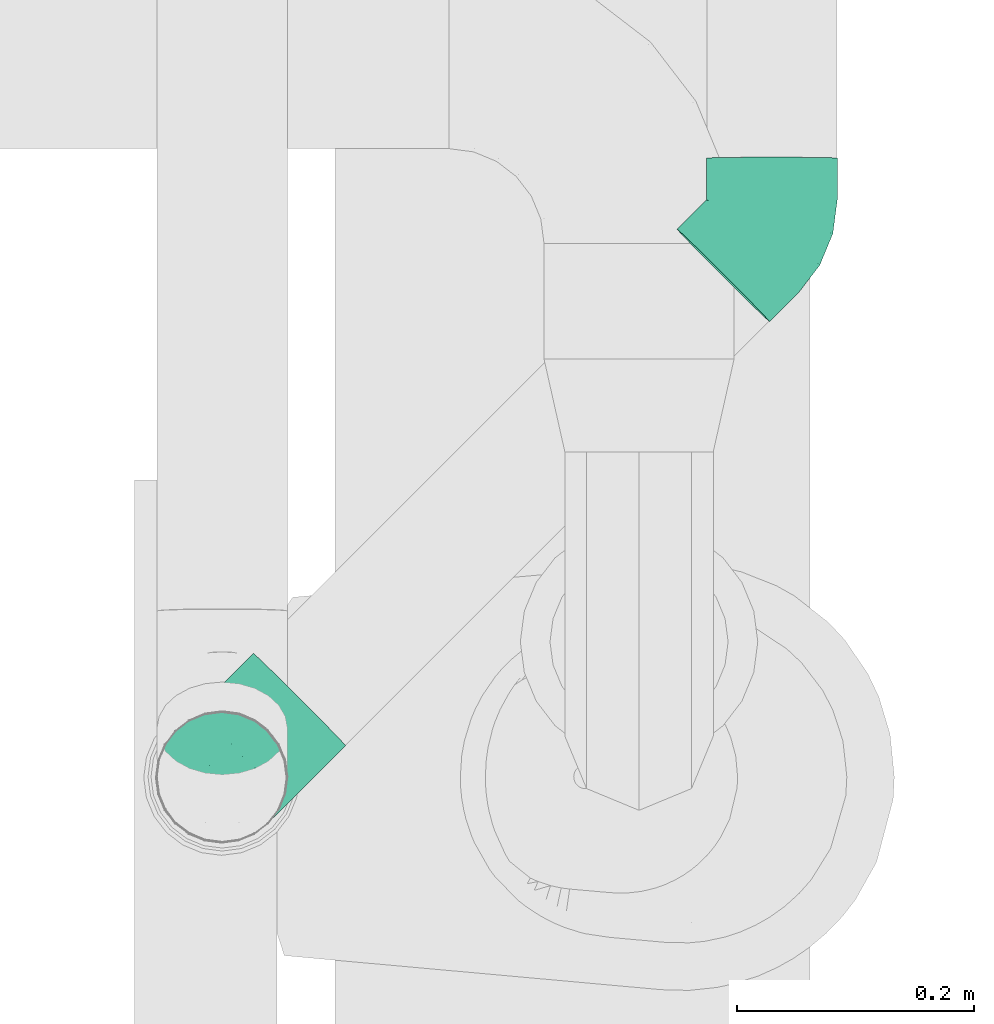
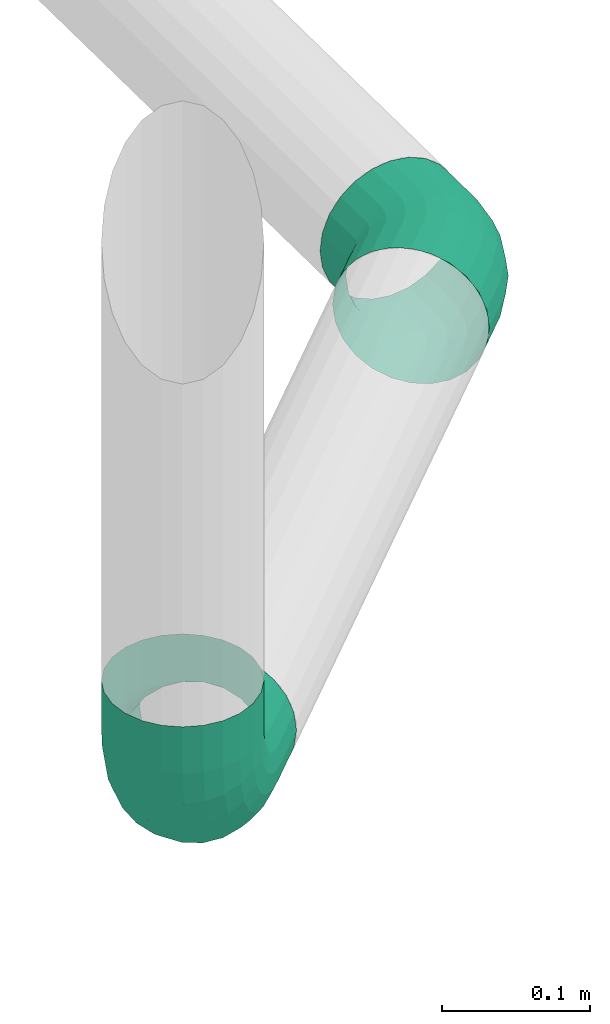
# One storey, part 120 of 374: 2 flow fittings.
"""IFC2X3 building model written with IfcOpenShell, lengths in metres."""

from ifc_helpers import new_model, si_unit, direction, origin, place, context, subcontext, project, spatial, open_shell, surface_model, source, transform, mapped, element, save


model = new_model("IFC2X3")

# Units and contexts
model_context = context("Model", 3, precision=1e-05, world=origin(), true_north=direction((-0.4480736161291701, 0.8939966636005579)))
body_context = subcontext(model_context, "Body", "Model", "MODEL_VIEW")
ifc_project = project(units=[si_unit("LENGTHUNIT", "METRE"), si_unit("AREAUNIT", "SQUARE_METRE"), si_unit("VOLUMEUNIT", "CUBIC_METRE"), si_unit("PLANEANGLEUNIT", "RADIAN"), si_unit("THERMODYNAMICTEMPERATUREUNIT", "KELVIN"), si_unit("MASSUNIT", "GRAM", prefix="KILO"), si_unit("TIMEUNIT", "SECOND")], contexts=[model_context])

# Site, building, storey
site_placement = place(None, origin())
site = spatial("IfcSite", under=ifc_project, at=site_placement, Name="Site 1", CompositionType="ELEMENT")
building_placement = place(site_placement, origin())
building = spatial("IfcBuilding", under=site, at=building_placement, Name="Undefined", CompositionType="ELEMENT")
storey_placement = place(building_placement, origin())
storey = spatial("IfcBuildingStorey", under=building, at=storey_placement, Name="Rez de chauss\x8ee", CompositionType="ELEMENT", Elevation=0.0)

# Flow fittings
shared_shape_1 = source(origin(), body_context, "Body", "SurfaceModel", [
    surface_model("IfcFaceBasedSurfaceModel", [(0.0, 0.014357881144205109, -3.552713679e-15), (0.0, 0.0, 0.0), (0.03869999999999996, -7.105427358e-15, 7.105427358e-15), (0.03869999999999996, 0.014357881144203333, 7.105427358e-15), (0.0, -0.01386864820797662, -0.0037160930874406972), (0.03869999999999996, -0.013868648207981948, -0.003716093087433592), (0.0, -0.026302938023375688, -0.010895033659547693), (0.03869999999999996, -0.02630293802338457, -0.010895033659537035), (0.0, -0.03645549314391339, -0.021047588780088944), (0.03869999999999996, -0.03645549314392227, -0.02104758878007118), (0.0, -0.04363443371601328, -0.033481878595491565), (0.03869999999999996, -0.043634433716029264, -0.033481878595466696), (0.0, -0.04735052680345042, -0.04735052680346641), (0.03869999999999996, -0.047350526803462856, -0.04735052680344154), (0.0, -0.04735052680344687, -0.06170840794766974), (0.03869999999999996, -0.047350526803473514, -0.061708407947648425), (0.0, -0.04363443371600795, -0.07557705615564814), (0.03869999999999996, -0.043634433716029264, -0.07557705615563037), (0.0, -0.03645549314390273, -0.08801134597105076), (0.03869999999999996, -0.03645549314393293, -0.088011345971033), (0.0, -0.026302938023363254, -0.0981639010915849), (0.03869999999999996, -0.02630293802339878, -0.09816390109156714), (0.0, -0.013868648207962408, -0.1053428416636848), (0.03869999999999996, -0.013868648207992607, -0.10534284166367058), (0.0, 1.5987211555e-14, -0.10905893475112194), (0.03869999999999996, -1.4210854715e-14, -0.10905893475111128), (0.0, 0.014357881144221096, -0.10905893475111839), (0.03869999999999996, 0.01435788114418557, -0.10905893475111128), (0.0, 0.028226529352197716, -0.10534284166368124), (0.03869999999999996, 0.028226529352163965, -0.10534284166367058), (0.0, 0.040660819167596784, -0.0981639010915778), (0.03869999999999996, 0.040660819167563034, -0.09816390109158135), (0.0, 0.05081337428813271, -0.08801134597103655), (0.03869999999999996, 0.050813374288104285, -0.088011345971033), (0.0, 0.05799231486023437, -0.07557705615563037), (0.03869999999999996, 0.05799231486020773, -0.07557705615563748), (0.0, 0.06170840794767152, -0.06170840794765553), (0.03869999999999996, 0.06170840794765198, -0.061708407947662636), (0.0, 0.061708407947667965, -0.0473505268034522), (0.03869999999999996, 0.06170840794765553, -0.047350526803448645), (0.0, 0.05799231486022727, -0.033481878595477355), (0.03869999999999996, 0.05799231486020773, -0.03348187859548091), (0.0, 0.050813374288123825, -0.021047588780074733), (0.03869999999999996, 0.05081337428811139, -0.02104758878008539), (0.0, 0.04066081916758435, -0.010895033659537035), (0.03869999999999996, 0.040660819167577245, -0.01089503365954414), (0.0, 0.028226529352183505, -0.0037160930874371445), (0.03869999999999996, 0.028226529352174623, -0.0037160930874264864), (0.06642387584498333, -0.04376678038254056, -0.06218021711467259), (0.06690439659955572, -0.043704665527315, -0.04783051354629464), (0.09229412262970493, -0.033255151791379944, -0.06356409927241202), (0.09322303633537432, -0.03301084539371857, -0.04923838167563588), (0.11458104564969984, -0.01651845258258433, -0.06576752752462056), (0.11589624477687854, -0.015984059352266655, -0.051480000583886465), (0.1317945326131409, 0.0053242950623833, -0.06864317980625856), (0.13340808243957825, 0.006237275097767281, -0.05440549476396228), (0.1427836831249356, 0.03081267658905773, -0.07199878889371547), (0.14458770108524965, 0.03216743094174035, -0.05781926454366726), (0.14681375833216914, 0.05824252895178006, -0.07560999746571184), (0.14868762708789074, 0.060072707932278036, -0.06149306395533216), (0.06501506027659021, -0.040232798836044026, -0.07602488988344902), (0.08957068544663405, -0.030255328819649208, -0.07733844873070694), (0.11072507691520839, -0.014369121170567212, -0.07942990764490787), (0.12706384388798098, 0.0063636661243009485, -0.08215943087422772), (0.1374945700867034, 0.03055683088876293, -0.08534452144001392), (0.14131985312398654, 0.05659280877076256, -0.08877222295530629), (0.06277395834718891, -0.03334355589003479, -0.0884210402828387), (0.08523832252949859, -0.02421580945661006, -0.08962273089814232), (0.1045911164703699, -0.009682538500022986, -0.09153607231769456), (0.11953840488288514, 0.009284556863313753, -0.0940331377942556), (0.1290808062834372, 0.03141732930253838, -0.09694697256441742), (0.13258031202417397, 0.05523597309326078, -0.10008275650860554), (0.05985329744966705, -0.023568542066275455, -0.09852389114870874), (0.07959227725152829, -0.015548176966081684, -0.0995797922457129), (0.09659718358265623, -0.002778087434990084, -0.10126100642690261), (0.1097310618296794, 0.01388791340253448, -0.10345512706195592), (0.11811577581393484, 0.0333355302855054, -0.10601545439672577), (0.12119072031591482, 0.054264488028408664, -0.10877080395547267), (0.05645211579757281, -0.011573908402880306, -0.10564494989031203), (0.07301731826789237, -0.004843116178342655, -0.10653107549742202), (0.08728805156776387, 0.005873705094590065, -0.10794197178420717), (0.09831016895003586, 0.019860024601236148, -0.10978330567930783), (0.10534672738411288, 0.036180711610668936, -0.11193196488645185), (0.10792725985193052, 0.053744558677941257, -0.114244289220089), (0.052802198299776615, 0.0018229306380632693, -0.10929892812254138), (0.06596151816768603, 0.007169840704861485, -0.11000286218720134), (0.0772981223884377, 0.015683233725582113, -0.11112367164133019), (0.08605404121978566, 0.026793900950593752, -0.1125864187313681), (0.09164385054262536, 0.03975897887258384, -0.11429330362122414), (0.09369381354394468, 0.05371161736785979, -0.11613020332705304), (0.049152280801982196, 0.01570900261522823, -0.10923681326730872), (0.05890571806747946, 0.019672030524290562, -0.10975855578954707), (0.06730819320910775, 0.025981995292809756, -0.11058927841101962), (0.07379791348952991, 0.034217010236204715, -0.11167343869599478), (0.07794097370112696, 0.04382647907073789, -0.11293854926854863), (0.07946036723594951, 0.0541679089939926, -0.11430002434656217), (0.04575109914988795, 0.02913799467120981, -0.10546283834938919), (0.05233075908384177, 0.03181144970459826, -0.10581480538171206), (0.057999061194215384, 0.036068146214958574, -0.10637521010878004), (0.06237702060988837, 0.041623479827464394, -0.10710658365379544), (0.06517192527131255, 0.04810601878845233, -0.10796002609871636), (0.0661969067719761, 0.05508233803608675, -0.10887847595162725), (0.0428304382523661, 0.04119474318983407, -0.09823419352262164), (0.04668471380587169, 0.04276081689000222, -0.09844037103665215), (0.05000512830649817, 0.0452543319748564, -0.0987686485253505), (0.05256967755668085, 0.04850857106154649, -0.09919707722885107), (0.054206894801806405, 0.052305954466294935, -0.09969701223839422), (0.05480731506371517, 0.05639258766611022, -0.1002350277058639), (0.04058933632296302, 0.051057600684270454, -0.08804349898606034), (0.04235235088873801, 0.05177395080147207, -0.08813780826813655), (0.043871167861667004, 0.05291452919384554, -0.08828796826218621), (0.04504423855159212, 0.05440307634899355, -0.08848393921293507), (0.04579313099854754, 0.056140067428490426, -0.08871261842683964), (0.04606777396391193, 0.058009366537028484, -0.08895871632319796), (0.03918052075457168, 0.05805442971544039, -0.07558523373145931), (0.039628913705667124, 0.05823662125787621, -0.07560921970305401), (0.040015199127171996, 0.0585267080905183, -0.07564741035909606), (0.040313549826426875, 0.05890529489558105, -0.07569725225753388), (0.040504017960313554, 0.05934706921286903, -0.07575541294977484), (0.04057386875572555, 0.05982249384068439, -0.07581800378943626), (0.03918052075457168, 0.06177052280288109, -0.04735870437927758), (0.039628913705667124, 0.06195271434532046, -0.047382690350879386), (0.040015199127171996, 0.0622428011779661, -0.047420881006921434), (0.040313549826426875, 0.06262138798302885, -0.04747072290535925), (0.040504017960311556, 0.06306316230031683, -0.04752888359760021), (0.040573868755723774, 0.06353858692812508, -0.04759147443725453), (0.0405893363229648, 0.058236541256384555, -0.033514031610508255), (0.04235235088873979, 0.05895289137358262, -0.03360834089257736), (0.043871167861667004, 0.06009346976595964, -0.033758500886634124), (0.04504423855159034, 0.06158201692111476, -0.03395447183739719), (0.04579313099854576, 0.06331900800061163, -0.03418315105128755), (0.04606777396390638, 0.06518830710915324, -0.03442924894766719), (0.0428304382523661, 0.05134729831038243, -0.021117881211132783), (0.04668471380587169, 0.052913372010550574, -0.021324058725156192), (0.05000512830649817, 0.055406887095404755, -0.02165233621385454), (0.05256967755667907, 0.05866112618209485, -0.02208076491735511), (0.054206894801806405, 0.06245850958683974, -0.022580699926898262), (0.05480731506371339, 0.06654514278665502, -0.02311871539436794), (0.04575109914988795, 0.041572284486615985, -0.011015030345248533), (0.05233075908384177, 0.04424573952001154, -0.01136699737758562), (0.057999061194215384, 0.0485024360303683, -0.01192740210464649), (0.06237702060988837, 0.054057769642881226, -0.012658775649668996), (0.06517192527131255, 0.06054030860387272, -0.013512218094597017), (0.0661969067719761, 0.06751662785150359, -0.014430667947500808), (0.049152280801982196, 0.029577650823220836, -0.0038939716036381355), (0.058905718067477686, 0.03354067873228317, -0.0044157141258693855), (0.06730819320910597, 0.03985064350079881, -0.0052464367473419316), (0.07379791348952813, 0.048085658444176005, -0.006330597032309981), (0.07794097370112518, 0.05769512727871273, -0.007595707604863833), (0.07946036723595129, 0.06803655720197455, -0.008957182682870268), (0.052802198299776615, 0.01618081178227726, -0.00023999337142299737), (0.06596151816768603, 0.02152772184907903, -0.000943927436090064), (0.07729812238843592, 0.030041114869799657, -0.0020647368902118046), (0.08605404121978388, 0.04115178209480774, -0.0035274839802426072), (0.09164385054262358, 0.05411686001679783, -0.005234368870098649), (0.09369381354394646, 0.06806949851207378, -0.007071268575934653), (0.056452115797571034, 0.0022947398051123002, -0.0003021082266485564), (0.07301731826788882, 0.0090255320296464, -0.0011882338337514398), (0.08728805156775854, 0.01974235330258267, -0.002599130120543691), (0.09831016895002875, 0.03372867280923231, -0.004440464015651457), (0.10534672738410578, 0.05004935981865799, -0.006589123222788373), (0.10792725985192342, 0.0676132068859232, -0.008901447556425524), (0.05985329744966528, -0.011134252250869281, -0.004076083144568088), (0.07959227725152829, -0.0031138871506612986, -0.005131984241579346), (0.09659718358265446, 0.009656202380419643, -0.006813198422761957), (0.1097310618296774, 0.026322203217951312, -0.009007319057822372), (0.11811577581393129, 0.045769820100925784, -0.011567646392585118), (0.12119072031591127, 0.06669877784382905, -0.014322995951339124), (0.06277395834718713, -0.023191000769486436, -0.011304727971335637), (0.08523832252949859, -0.01406325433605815, -0.012506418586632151), (0.10459111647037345, 0.00047001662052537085, -0.014419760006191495), (0.11953840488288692, 0.019437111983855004, -0.01691682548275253), (0.12908080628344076, 0.041569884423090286, -0.019830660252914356), (0.13258031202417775, 0.06538852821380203, -0.022966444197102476), (0.06501506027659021, -0.033053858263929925, -0.021495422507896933), (0.08957068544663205, -0.02307638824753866, -0.022808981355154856), (0.11072507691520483, -0.007190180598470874, -0.024900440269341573), (0.1270638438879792, 0.013542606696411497, -0.027629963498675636), (0.1374945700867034, 0.03773577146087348, -0.030815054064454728), (0.14131985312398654, 0.063771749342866, -0.0342427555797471), (0.06642387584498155, -0.04005068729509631, -0.033953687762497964), (0.09229412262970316, -0.02953905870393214, -0.035337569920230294), (0.11458104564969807, -0.012802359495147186, -0.03754099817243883), (0.1317945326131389, 0.009040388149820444, -0.040416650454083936), (0.14278368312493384, 0.03452876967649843, -0.04377225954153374), (0.14681375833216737, 0.061958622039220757, -0.04738346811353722), (0.14739419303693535, 0.09660712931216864, -0.08066079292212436), (0.14926806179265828, 0.09843730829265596, -0.06654385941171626), (0.1419002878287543, 0.09495740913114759, -0.0938230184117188), (0.1331607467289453, 0.09360057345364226, -0.10513355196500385), (0.1217711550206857, 0.09262908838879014, -0.11382159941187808), (0.10850769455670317, 0.09210915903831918, -0.11929508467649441), (0.09427424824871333, 0.09207621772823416, -0.12118099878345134), (0.0800408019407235, 0.09253250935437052, -0.11935081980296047), (0.06677734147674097, 0.09344693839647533, -0.11392927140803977), (0.055387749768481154, 0.09475718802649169, -0.10528582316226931), (0.046648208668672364, 0.09637396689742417, -0.09400951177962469), (0.041154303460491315, 0.09818709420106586, -0.08086879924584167), (0.039280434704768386, 0.10007300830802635, -0.06675920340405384), (0.041154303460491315, 0.10190318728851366, -0.05264226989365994), (0.046648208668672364, 0.10355290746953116, -0.039480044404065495), (0.055387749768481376, 0.10490974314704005, -0.02816951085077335), (0.06677734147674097, 0.10588122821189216, -0.019481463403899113), (0.0800408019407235, 0.10640115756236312, -0.014007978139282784), (0.09427424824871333, 0.10643409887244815, -0.012122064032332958), (0.10850769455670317, 0.10597780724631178, -0.013952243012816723), (0.1217711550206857, 0.10506337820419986, -0.01937379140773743), (0.1331607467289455, 0.10375312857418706, -0.02801723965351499), (0.1419002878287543, 0.10213634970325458, -0.03929355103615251), (0.14739419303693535, 0.10032322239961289, -0.05243426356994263)], [open_shell([[[0, 1, 2, 3]], [[1, 4, 5, 2]], [[4, 6, 7, 5]], [[6, 8, 9, 7]], [[8, 10, 11, 9]], [[10, 12, 13, 11]], [[12, 14, 15, 13]], [[14, 16, 17, 15]], [[16, 18, 19, 17]], [[18, 20, 21, 19]], [[20, 22, 23, 21]], [[22, 24, 25, 23]], [[24, 26, 27, 25]], [[26, 28, 29, 27]], [[28, 30, 31, 29]], [[30, 32, 33, 31]], [[32, 34, 35, 33]], [[34, 36, 37, 35]], [[36, 38, 39, 37]], [[38, 40, 41, 39]], [[40, 42, 43, 41]], [[42, 44, 45, 43]], [[44, 46, 47, 45]], [[46, 0, 3, 47]], [[13, 15, 48, 49]], [[49, 48, 50, 51]], [[51, 50, 52, 53]], [[53, 52, 54, 55]], [[55, 54, 56, 57]], [[57, 56, 58, 59]], [[15, 17, 60, 48]], [[48, 60, 61, 50]], [[50, 61, 62, 52]], [[52, 62, 63, 54]], [[54, 63, 64, 56]], [[56, 64, 65, 58]], [[17, 19, 66, 60]], [[60, 66, 67, 61]], [[61, 67, 68, 62]], [[62, 68, 69, 63]], [[63, 69, 70, 64]], [[64, 70, 71, 65]], [[19, 21, 72, 66]], [[66, 72, 73, 67]], [[67, 73, 74, 68]], [[68, 74, 75, 69]], [[69, 75, 76, 70]], [[70, 76, 77, 71]], [[21, 23, 78, 72]], [[72, 78, 79, 73]], [[73, 79, 80, 74]], [[74, 80, 81, 75]], [[75, 81, 82, 76]], [[76, 82, 83, 77]], [[23, 25, 84, 78]], [[78, 84, 85, 79]], [[79, 85, 86, 80]], [[80, 86, 87, 81]], [[81, 87, 88, 82]], [[82, 88, 89, 83]], [[25, 27, 90, 84]], [[84, 90, 91, 85]], [[85, 91, 92, 86]], [[86, 92, 93, 87]], [[87, 93, 94, 88]], [[88, 94, 95, 89]], [[27, 29, 96, 90]], [[90, 96, 97, 91]], [[91, 97, 98, 92]], [[92, 98, 99, 93]], [[93, 99, 100, 94]], [[94, 100, 101, 95]], [[29, 31, 102, 96]], [[96, 102, 103, 97]], [[97, 103, 104, 98]], [[98, 104, 105, 99]], [[99, 105, 106, 100]], [[100, 106, 107, 101]], [[31, 33, 108, 102]], [[102, 108, 109, 103]], [[103, 109, 110, 104]], [[104, 110, 111, 105]], [[105, 111, 112, 106]], [[106, 112, 113, 107]], [[33, 35, 114, 108]], [[108, 114, 115, 109]], [[109, 115, 116, 110]], [[110, 116, 117, 111]], [[111, 117, 118, 112]], [[112, 118, 119, 113]], [[35, 37, 114]], [[114, 37, 115]], [[115, 37, 116]], [[116, 37, 117]], [[117, 37, 118]], [[118, 37, 119]], [[37, 39, 120]], [[37, 120, 121]], [[37, 121, 122]], [[37, 122, 123]], [[37, 123, 124]], [[37, 124, 125]], [[39, 41, 126, 120]], [[120, 126, 127, 121]], [[121, 127, 128, 122]], [[122, 128, 129, 123]], [[123, 129, 130, 124]], [[124, 130, 131, 125]], [[41, 43, 132, 126]], [[126, 132, 133, 127]], [[127, 133, 134, 128]], [[128, 134, 135, 129]], [[129, 135, 136, 130]], [[130, 136, 137, 131]], [[43, 45, 138, 132]], [[132, 138, 139, 133]], [[133, 139, 140, 134]], [[134, 140, 141, 135]], [[135, 141, 142, 136]], [[136, 142, 143, 137]], [[45, 47, 144, 138]], [[138, 144, 145, 139]], [[139, 145, 146, 140]], [[140, 146, 147, 141]], [[141, 147, 148, 142]], [[142, 148, 149, 143]], [[47, 3, 150, 144]], [[144, 150, 151, 145]], [[145, 151, 152, 146]], [[146, 152, 153, 147]], [[147, 153, 154, 148]], [[148, 154, 155, 149]], [[3, 2, 156, 150]], [[150, 156, 157, 151]], [[151, 157, 158, 152]], [[152, 158, 159, 153]], [[153, 159, 160, 154]], [[154, 160, 161, 155]], [[2, 5, 162, 156]], [[156, 162, 163, 157]], [[157, 163, 164, 158]], [[158, 164, 165, 159]], [[159, 165, 166, 160]], [[160, 166, 167, 161]], [[5, 7, 168, 162]], [[162, 168, 169, 163]], [[163, 169, 170, 164]], [[164, 170, 171, 165]], [[165, 171, 172, 166]], [[166, 172, 173, 167]], [[7, 9, 174, 168]], [[168, 174, 175, 169]], [[169, 175, 176, 170]], [[170, 176, 177, 171]], [[171, 177, 178, 172]], [[172, 178, 179, 173]], [[9, 11, 180, 174]], [[174, 180, 181, 175]], [[175, 181, 182, 176]], [[176, 182, 183, 177]], [[177, 183, 184, 178]], [[178, 184, 185, 179]], [[11, 13, 49, 180]], [[180, 49, 51, 181]], [[181, 51, 53, 182]], [[182, 53, 55, 183]], [[183, 55, 57, 184]], [[184, 57, 59, 185]], [[59, 58, 186, 187]], [[58, 65, 188, 186]], [[65, 71, 189, 188]], [[71, 77, 190, 189]], [[77, 83, 191, 190]], [[83, 89, 192, 191]], [[89, 95, 193, 192]], [[95, 101, 194, 193]], [[101, 107, 195, 194]], [[107, 113, 196, 195]], [[113, 119, 197, 196]], [[119, 37, 198, 197]], [[37, 125, 199, 198]], [[125, 131, 200, 199]], [[131, 137, 201, 200]], [[137, 143, 202, 201]], [[143, 149, 203, 202]], [[149, 155, 204, 203]], [[155, 161, 205, 204]], [[161, 167, 206, 205]], [[167, 173, 207, 206]], [[173, 179, 208, 207]], [[179, 185, 209, 208]], [[185, 59, 187, 209]]])]),
])
flow_fitting_1_placement = place(storey_placement, origin())
element("IfcFlowFitting", 1, at=flow_fitting_1_placement, inside=storey, Name="PE-HD équerre de raccordement 88.5°", ObjectType="PE-HD équerre de raccordement 88.5°", context=body_context, shape_type="MappedRepresentation", body=[
    mapped(shared_shape_1, transform((57.10089170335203, 11.262760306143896, -1.0587293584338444), x_axis=(0.0, 0.0, -1.0), y_axis=(0.7933533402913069, 0.6087614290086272, 0.0), z_axis=(0.6087614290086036, -0.7933533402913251, 0.0))),
])
shared_shape_2 = source(origin(), body_context, "Body", "SurfaceModel", [
    surface_model("IfcFaceBasedSurfaceModel", [(0.0, 0.014357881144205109, -3.552713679e-15), (0.0, 0.0, 0.0), (0.03509999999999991, 1.776356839e-15, -1.776356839e-15), (0.03509999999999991, 0.014357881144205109, 0.0), (0.0, -0.01386864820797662, -0.0037160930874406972), (0.035100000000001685, -0.01386864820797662, -0.003716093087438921), (0.0, -0.026302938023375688, -0.010895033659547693), (0.03509999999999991, -0.026302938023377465, -0.010895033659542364), (0.0, -0.03645549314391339, -0.021047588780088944), (0.035100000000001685, -0.03645549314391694, -0.021047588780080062), (0.0, -0.04363443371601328, -0.033481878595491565), (0.035100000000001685, -0.043634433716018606, -0.03348187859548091), (0.0, -0.04735052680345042, -0.04735052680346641), (0.03510000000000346, -0.04735052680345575, -0.04735052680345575), (0.0, -0.04735052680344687, -0.06170840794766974), (0.035100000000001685, -0.047350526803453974, -0.061708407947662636), (0.0, -0.04363443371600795, -0.07557705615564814), (0.035100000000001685, -0.04363443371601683, -0.07557705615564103), (0.0, -0.03645549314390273, -0.08801134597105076), (0.035100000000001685, -0.03645549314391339, -0.08801134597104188), (0.0, -0.026302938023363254, -0.0981639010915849), (0.03510000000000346, -0.026302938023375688, -0.09816390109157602), (0.0, -0.013868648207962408, -0.1053428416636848), (0.03510000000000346, -0.013868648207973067, -0.10534284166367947), (0.0, 1.5987211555e-14, -0.10905893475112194), (0.03510000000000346, 5.329070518e-15, -0.10905893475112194), (0.0, 0.014357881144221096, -0.10905893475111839), (0.035100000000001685, 0.014357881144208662, -0.10905893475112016), (0.0, 0.028226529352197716, -0.10534284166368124), (0.03510000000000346, 0.02822652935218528, -0.10534284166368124), (0.0, 0.040660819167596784, -0.0981639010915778), (0.03510000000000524, 0.040660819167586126, -0.09816390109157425), (0.0, 0.05081337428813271, -0.08801134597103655), (0.035100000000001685, 0.050813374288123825, -0.08801134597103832), (0.0, 0.05799231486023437, -0.07557705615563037), (0.035100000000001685, 0.05799231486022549, -0.07557705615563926), (0.0, 0.06170840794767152, -0.06170840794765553), (0.035100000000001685, 0.06170840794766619, -0.06170840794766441), (0.0, 0.061708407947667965, -0.0473505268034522), (0.035100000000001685, 0.061708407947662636, -0.0473505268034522), (0.0, 0.05799231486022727, -0.033481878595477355), (0.03510000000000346, 0.057992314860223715, -0.033481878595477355), (0.0, 0.050813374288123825, -0.021047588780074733), (0.035100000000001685, 0.05081337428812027, -0.021047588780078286), (0.0, 0.04066081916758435, -0.010895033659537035), (0.035100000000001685, 0.040660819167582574, -0.010895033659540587), (0.0, 0.028226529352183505, -0.0037160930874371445), (0.035100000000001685, 0.028226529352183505, -0.003716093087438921), (0.06308180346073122, -0.04369860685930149, -0.0621891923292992), (0.06356679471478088, -0.043635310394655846, -0.047839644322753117), (0.08915714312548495, -0.03299166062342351, -0.06359878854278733), (0.09009408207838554, -0.03274278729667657, -0.04927367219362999), (0.111549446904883, -0.015959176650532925, -0.0658411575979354), (0.11287449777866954, -0.015415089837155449, -0.05155490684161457), (0.06165988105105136, -0.040168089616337, -0.07603340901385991), (0.086410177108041, -0.03000522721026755, -0.07737137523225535), (0.10766459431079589, -0.013838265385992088, -0.07949979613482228), (0.05939792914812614, -0.033284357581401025, -0.0884288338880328), (0.08204038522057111, -0.023987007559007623, -0.08965285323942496), (0.10148468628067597, -0.009196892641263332, -0.09160000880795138), (0.05645009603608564, -0.02351652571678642, -0.09853073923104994), (0.07634556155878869, -0.015347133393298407, -0.09960626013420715), (0.0934308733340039, -0.0023513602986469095, -0.10131718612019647), (0.05301727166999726, -0.011530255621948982, -0.10565069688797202), (0.06971379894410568, -0.004674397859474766, -0.10655328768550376), (0.08405200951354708, 0.006231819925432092, -0.10798911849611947), (0.04933339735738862, 0.0018576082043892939, -0.10930349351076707), (0.06259704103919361, 0.007303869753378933, -0.11002050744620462), (0.07398724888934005, 0.015967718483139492, -0.1111611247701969), (0.04564952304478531, 0.015734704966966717, -0.10924019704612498), (0.0554802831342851, 0.01977137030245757, -0.10977163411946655), (0.06392248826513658, 0.026192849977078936, -0.1106170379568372), (0.04221669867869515, 0.02915533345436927, -0.1054651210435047), (0.04884852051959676, 0.03187846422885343, -0.10582362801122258), (0.054543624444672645, 0.03621038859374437, -0.10639393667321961), (0.039268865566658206, 0.04120490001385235, -0.09823553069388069), (0.043153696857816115, 0.04280007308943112, -0.09844553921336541), (0.0464898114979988, 0.04533765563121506, -0.09877961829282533), (0.03700691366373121, 0.051062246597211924, -0.08804411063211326), (0.03878390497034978, 0.05179190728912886, -0.08814017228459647), (0.040309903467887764, 0.052952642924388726, -0.08829298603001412), (0.03558499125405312, 0.05805561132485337, -0.07558538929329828), (0.03603693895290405, 0.05824118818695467, -0.0756098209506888), (0.03642505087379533, 0.0585364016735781, -0.07564868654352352), (0.035584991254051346, 0.06177170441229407, -0.04735885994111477), (0.036036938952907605, 0.061957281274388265, -0.047383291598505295), (0.036425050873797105, 0.06225249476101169, -0.04742215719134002), (0.037006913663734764, 0.05824118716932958, -0.03351464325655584), (0.038783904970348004, 0.058970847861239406, -0.033610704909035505), (0.040309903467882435, 0.060131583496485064, -0.03376351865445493), (0.039268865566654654, 0.051357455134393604, -0.021119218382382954), (0.04315369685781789, 0.05295262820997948, -0.02132922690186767), (0.04648981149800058, 0.0554902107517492, -0.02166330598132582), (0.04221669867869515, 0.04158962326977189, -0.011017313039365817), (0.048848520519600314, 0.044312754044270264, -0.01137582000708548), (0.05454362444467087, 0.048644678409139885, -0.011946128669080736), (0.04564952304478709, 0.02960335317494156, -0.0038973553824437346), (0.0554802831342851, 0.03364001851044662, -0.004428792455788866), (0.06392248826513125, 0.04006149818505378, -0.005274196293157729), (0.049333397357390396, 0.016215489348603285, -0.00024455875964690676), (0.06259704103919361, 0.02166175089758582, -0.0009615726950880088), (0.07398724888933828, 0.030325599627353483, -0.0021021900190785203), (0.05301727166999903, 0.002338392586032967, -0.00030785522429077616), (0.06971379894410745, 0.009194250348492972, -0.0012104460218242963), (0.08405200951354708, 0.02010046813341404, -0.0026462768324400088), (0.05645009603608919, -0.011082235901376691, -0.004082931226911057), (0.07634556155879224, -0.002912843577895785, -0.0051584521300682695), (0.09343087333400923, 0.010082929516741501, -0.006869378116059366), (0.05939792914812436, -0.023131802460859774, -0.011312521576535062), (0.08204038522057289, -0.013834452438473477, -0.01253654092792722), (0.10148468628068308, 0.0009556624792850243, -0.014483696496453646), (0.06165988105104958, -0.03298914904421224, -0.021503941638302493), (0.08641017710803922, -0.022826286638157, -0.022841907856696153), (0.10766459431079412, -0.006659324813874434, -0.02497032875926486), (0.06308180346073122, -0.0399825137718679, -0.0339626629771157), (0.08915714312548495, -0.02927556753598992, -0.03537225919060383), (0.11154944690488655, -0.012243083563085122, -0.03761462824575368), (0.13637120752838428, 0.008645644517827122, -0.06908044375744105), (0.13769625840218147, 0.009189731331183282, -0.054794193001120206), (0.13248635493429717, 0.010766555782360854, -0.08273908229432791), (0.12630644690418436, 0.015407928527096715, -0.09483929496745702), (0.11825263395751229, 0.022253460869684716, -0.10455647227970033), (0.10887377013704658, 0.030836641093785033, -0.11122840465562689), (0.09880900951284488, 0.04057253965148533, -0.11440041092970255), (0.08874424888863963, 0.05079767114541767, -0.11385632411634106), (0.0793653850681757, 0.060815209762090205, -0.10963322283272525), (0.07131157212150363, 0.069942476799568, -0.10201890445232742), (0.06513166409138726, 0.07755746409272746, -0.09153227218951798), (0.061246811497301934, 0.08314122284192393, -0.07888797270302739), (0.05992176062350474, 0.08631322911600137, -0.06494769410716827), (0.06124681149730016, 0.08685731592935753, -0.05066144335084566), (0.06513166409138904, 0.0847364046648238, -0.03700280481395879), (0.07131157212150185, 0.08009503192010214, -0.02490259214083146), (0.07936538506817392, 0.07324949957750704, -0.015185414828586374), (0.08874424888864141, 0.06466631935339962, -0.008513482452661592), (0.09880900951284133, 0.05493042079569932, -0.005341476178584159), (0.10887377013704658, 0.04470528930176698, -0.005885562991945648), (0.11825263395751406, 0.03468775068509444, -0.010108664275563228), (0.12630644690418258, 0.02556048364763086, -0.01772298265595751), (0.13248635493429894, 0.017945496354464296, -0.028209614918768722), (0.13637120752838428, 0.01236173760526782, -0.04085391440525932)], [open_shell([[[0, 1, 2, 3]], [[1, 4, 5, 2]], [[4, 6, 7, 5]], [[6, 8, 9, 7]], [[8, 10, 11, 9]], [[10, 12, 13, 11]], [[12, 14, 15, 13]], [[14, 16, 17, 15]], [[16, 18, 19, 17]], [[18, 20, 21, 19]], [[20, 22, 23, 21]], [[22, 24, 25, 23]], [[24, 26, 27, 25]], [[26, 28, 29, 27]], [[28, 30, 31, 29]], [[30, 32, 33, 31]], [[32, 34, 35, 33]], [[34, 36, 37, 35]], [[36, 38, 39, 37]], [[38, 40, 41, 39]], [[40, 42, 43, 41]], [[42, 44, 45, 43]], [[44, 46, 47, 45]], [[46, 0, 3, 47]], [[13, 15, 48, 49]], [[49, 48, 50, 51]], [[51, 50, 52, 53]], [[15, 17, 54, 48]], [[48, 54, 55, 50]], [[50, 55, 56, 52]], [[17, 19, 57, 54]], [[54, 57, 58, 55]], [[55, 58, 59, 56]], [[19, 21, 60, 57]], [[57, 60, 61, 58]], [[58, 61, 62, 59]], [[21, 23, 63, 60]], [[60, 63, 64, 61]], [[61, 64, 65, 62]], [[23, 25, 66, 63]], [[63, 66, 67, 64]], [[64, 67, 68, 65]], [[25, 27, 69, 66]], [[66, 69, 70, 67]], [[67, 70, 71, 68]], [[27, 29, 72, 69]], [[69, 72, 73, 70]], [[70, 73, 74, 71]], [[29, 31, 75, 72]], [[72, 75, 76, 73]], [[73, 76, 77, 74]], [[31, 33, 78, 75]], [[75, 78, 79, 76]], [[76, 79, 80, 77]], [[33, 35, 81, 78]], [[78, 81, 82, 79]], [[79, 82, 83, 80]], [[35, 37, 81]], [[81, 37, 82]], [[82, 37, 83]], [[37, 39, 84]], [[37, 84, 85]], [[37, 85, 86]], [[39, 41, 87, 84]], [[84, 87, 88, 85]], [[85, 88, 89, 86]], [[41, 43, 90, 87]], [[87, 90, 91, 88]], [[88, 91, 92, 89]], [[43, 45, 93, 90]], [[90, 93, 94, 91]], [[91, 94, 95, 92]], [[45, 47, 96, 93]], [[93, 96, 97, 94]], [[94, 97, 98, 95]], [[47, 3, 99, 96]], [[96, 99, 100, 97]], [[97, 100, 101, 98]], [[3, 2, 102, 99]], [[99, 102, 103, 100]], [[100, 103, 104, 101]], [[2, 5, 105, 102]], [[102, 105, 106, 103]], [[103, 106, 107, 104]], [[5, 7, 108, 105]], [[105, 108, 109, 106]], [[106, 109, 110, 107]], [[7, 9, 111, 108]], [[108, 111, 112, 109]], [[109, 112, 113, 110]], [[9, 11, 114, 111]], [[111, 114, 115, 112]], [[112, 115, 116, 113]], [[11, 13, 49, 114]], [[114, 49, 51, 115]], [[115, 51, 53, 116]], [[53, 52, 117, 118]], [[52, 56, 119, 117]], [[56, 59, 120, 119]], [[59, 62, 121, 120]], [[62, 65, 122, 121]], [[65, 68, 123, 122]], [[68, 71, 124, 123]], [[71, 74, 125, 124]], [[74, 77, 126, 125]], [[77, 80, 127, 126]], [[80, 83, 128, 127]], [[83, 37, 129, 128]], [[37, 86, 130, 129]], [[86, 89, 131, 130]], [[89, 92, 132, 131]], [[92, 95, 133, 132]], [[95, 98, 134, 133]], [[98, 101, 135, 134]], [[101, 104, 136, 135]], [[104, 107, 137, 136]], [[107, 110, 138, 137]], [[110, 113, 139, 138]], [[113, 116, 140, 139]], [[116, 53, 118, 140]]])]),
])
flow_fitting_2_placement = place(storey_placement, origin())
element("IfcFlowFitting", 2, at=flow_fitting_2_placement, inside=storey, Name="PE-HD coude 45°", ObjectType="PE-HD coude 45°", context=body_context, shape_type="MappedRepresentation", body=[
    mapped(shared_shape_2, transform((57.55084064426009, 11.831225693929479, -1.2167501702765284), x_axis=(0.0, -0.9998875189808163, 0.014998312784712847), y_axis=(-0.9922366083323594, -0.0018652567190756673, -0.12435044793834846), z_axis=(0.12436443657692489, -0.014881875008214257, -0.9921250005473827))),
])

save(model, "model.ifc")
